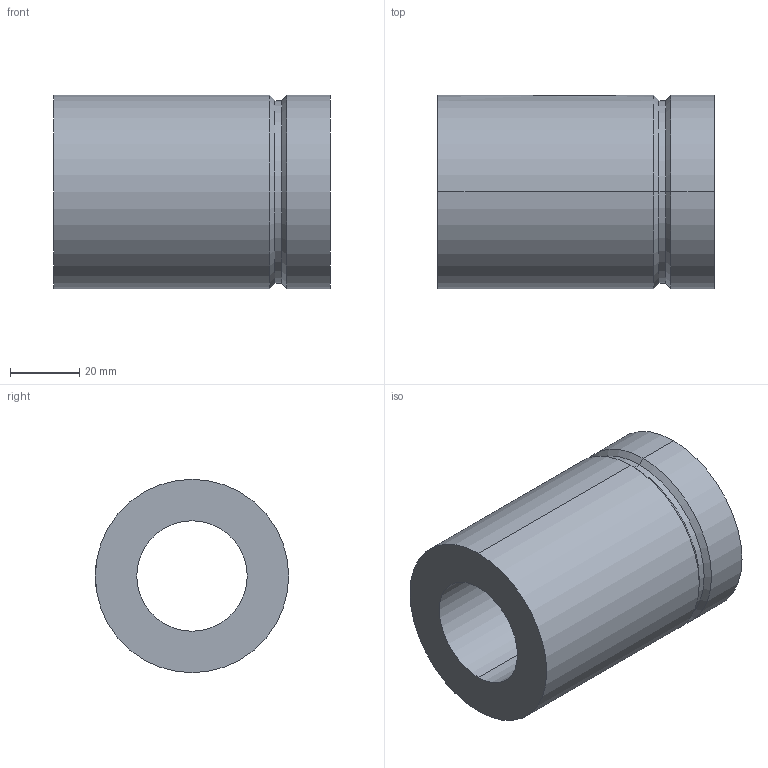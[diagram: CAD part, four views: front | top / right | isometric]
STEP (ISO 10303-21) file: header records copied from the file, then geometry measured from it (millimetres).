
FILE_DESCRIPTION (( 'STEP AP203' ), '1' );
FILE_NAME ('ZE3220-R-2EB.STEP', '2002-08-15T11:59:18', ( '.' ), ( '.' ), 'SwSTEP 2.0', 'SolidWorks 2001340', '' );
FILE_SCHEMA (( 'CONFIG_CONTROL_DESIGN' ));
Length unit declared in the file: millimetre
Products named in the file (1): ZE3220-R-2EB
Bounding box: 80 x 56 x 56 mm (x, y, z)
Volume: 131568.9 mm3; surface area: 25741.5 mm2
Topology: 1 solids, 1 shells, 19 faces, 40 edges, 24 vertices
Faces by surface type: cylinder 10, plane 5, cone 4
Entity records: 641 total; most frequent: CARTESIAN_POINT 140, DIRECTION 96, ORIENTED_EDGE 80, EDGE_CURVE 40, AXIS2_PLACEMENT_3D 38, VERTEX_POINT 24, EDGE_LOOP 22, LINE 20
